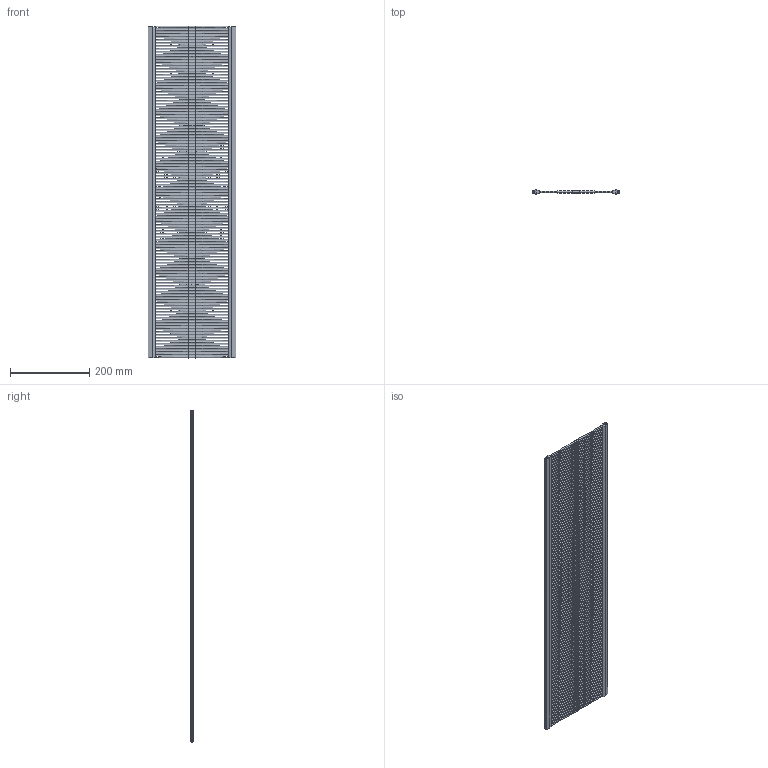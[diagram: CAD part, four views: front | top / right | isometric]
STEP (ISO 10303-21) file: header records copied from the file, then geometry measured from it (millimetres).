
FILE_DESCRIPTION(('Open CASCADE Model'),'2;1');
FILE_NAME('Open CASCADE Shape Model','2025-02-21T16:18:44',('Author'),( 'Open CASCADE'),'Open CASCADE STEP processor 7.8','Open CASCADE 7.8' ,'Unknown');
FILE_SCHEMA(('AUTOMOTIVE_DESIGN { 1 0 10303 214 1 1 1 1 }'));
Length unit declared in the file: millimetre
Products named in the file (2): Compound1; Solid1
Assembly tree (2 placements, depth 2):
  Compound1
    Solid1  x2
Bounding box: 220 x 9.5 x 836.1 mm (x, y, z)
Volume: 666267.3 mm3; surface area: 573423.1 mm2
Topology: 2 solids, 2 shells, 462 faces, 2670 edges, 1776 vertices
Faces by surface type: cone 434, plane 28
Entity records: 23384 total; most frequent: CARTESIAN_POINT 12394, ORIENTED_EDGE 2670, DIRECTION 2238, EDGE_CURVE 1335, AXIS2_PLACEMENT_3D 1102, VERTEX_POINT 888, CIRCLE 868, FACE_BOUND 447
